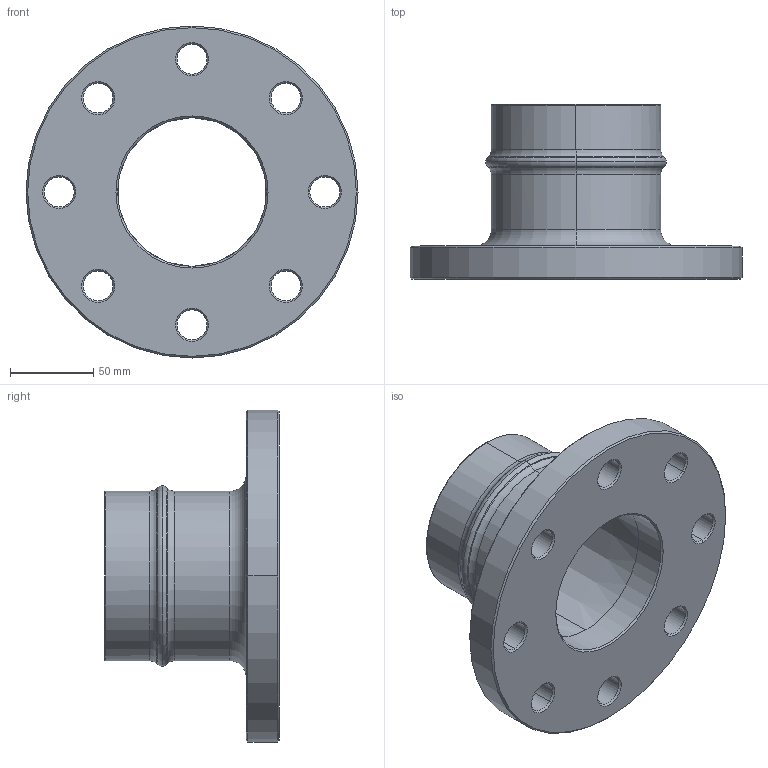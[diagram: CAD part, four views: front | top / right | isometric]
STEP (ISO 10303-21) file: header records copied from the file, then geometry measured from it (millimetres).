
FILE_DESCRIPTION((''),'2;1');
FILE_NAME('AU15787100','2019-12-13T',('Administrator'),(''),'PRO/ENGINEER BY PARAMETRIC TECHNOLOGY CORPORATION, 2009360','PRO/ENGINEER BY PARAMETRIC TECHNOLOGY CORPORATION, 2009360','');
FILE_SCHEMA(('AUTOMOTIVE_DESIGN_CC2 { 1 2 10303 214 -1 1 5 2 }'));
Length unit declared in the file: millimetre
Products named in the file (1): AU15787100
Bounding box: 200 x 105.25 x 200 mm (x, y, z)
Volume: 623008.8 mm3; surface area: 122666.8 mm2
Topology: 1 solids, 1 shells, 85 faces, 196 edges, 114 vertices
Faces by surface type: cone 44, cylinder 24, torus 14, plane 3
Entity records: 3073 total; most frequent: DIRECTION 494, CARTESIAN_POINT 395, ORIENTED_EDGE 392, AXIS2_PLACEMENT_3D 213, PRESENTATION_STYLE_ASSIGNMENT 197, STYLED_ITEM 197, CURVE_STYLE 196, EDGE_CURVE 196
